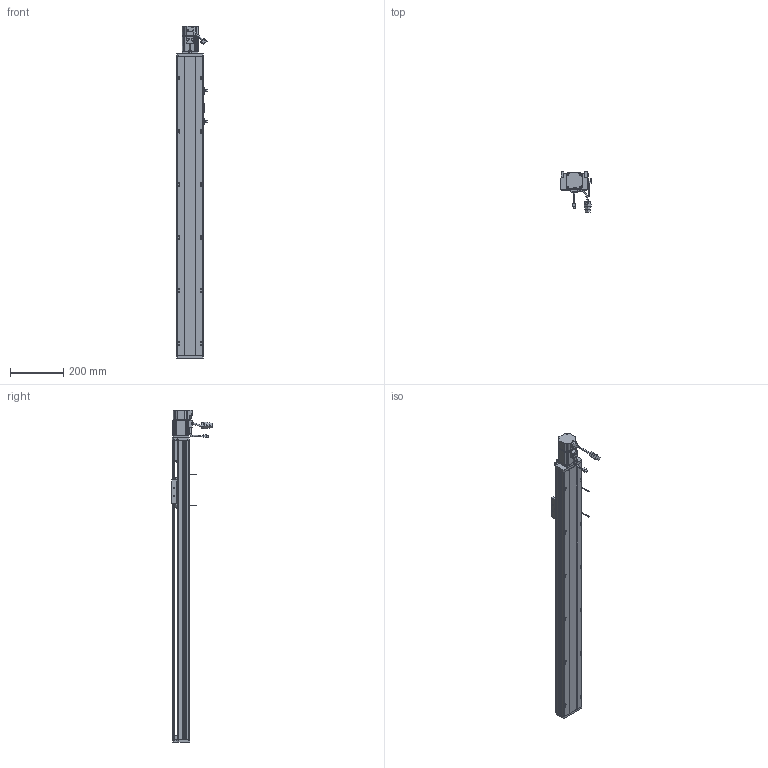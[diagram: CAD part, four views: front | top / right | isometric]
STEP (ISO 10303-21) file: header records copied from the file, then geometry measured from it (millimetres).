
FILE_DESCRIPTION (( 'STEP AP214' ), '1' );
FILE_NAME ('CTH10-900.STEP', '2019-11-18T08:19:25', ( '微软用户' ), ( '微软中国' ), 'SwSTEP 2.0', 'SolidWorks 2017', '' );
FILE_SCHEMA (( 'AUTOMOTIVE_DESIGN' ));
Length unit declared in the file: millimetre
Products named in the file (34): COL12B-粣遠; 粣創揤啣; 噩砃MGN12C-2R420-Z0CHC; 7001-DF; 噩砃MGN12C-R1; BEARING_BaseModel20190604090351; 噩砃MGN12C; CTH10-粣創釱; 噩砃M3-L10囀鞠褒蹟佪; 怢湛200W侜督萇儂ECMA-CX0602ES; MGN12C-2R420-Z0CHC; CTH10-盖板_默认<按加工>; MGN12C-R1; SFH1605; MGN12C; SFH1605-288; 100耀郪-覜茼んえ; CTH10-侜督萇儂啣; M3-L8囀鞠褒蹟佪; CTH10-傷啣; EE-SX672; CTH10-盓傅釱; M4-L6半圆头内六角螺丝; CTH10-蹟簽蟀諉啣; 6000Z粣創; CTH10-移动座_默认<按加工>; 遣喳蝶15x12x8; CTH10-底座_默认<按加工>; M5-L20囀鞠褒蹟佪; CTH10粣創釱蚾饜极; CTH10-900; M3-L10囀鞠褒蹟佪; M4-L8囀鞠褒蹟佪; 坶踡蹟譫
Assembly tree (100 placements, depth 4):
  CTH10-900
    CTH10-底座_默认<按加工>
    CTH10-移动座_默认<按加工>
    CTH10-蹟簽蟀諉啣
    CTH10-盓傅釱
    CTH10-傷啣
    CTH10-侜督萇儂啣
    SFH1605-288
    SFH1605
    CTH10-盖板_默认<按加工>
    怢湛200W侜督萇儂ECMA-CX0602ES
    CTH10粣創釱蚾饜极
      CTH10-粣創釱
      7001-DF
        BEARING_BaseModel20190604090351  x2
      粣創揤啣
      COL12B-粣遠  x2
      坶踡蹟譫
      M4-L8囀鞠褒蹟佪  x4
      M3-L10囀鞠褒蹟佪  x6
    M3-L10囀鞠褒蹟佪  x19
    M5-L20囀鞠褒蹟佪  x4
    遣喳蝶15x12x8  x3
    6000Z粣創
    M4-L6半圆头内六角螺丝  x4
    M4-L8囀鞠褒蹟佪  x8
    EE-SX672  x2
    M3-L8囀鞠褒蹟佪  x4
    100耀郪-覜茼んえ
    MGN12C-2R420-Z0CHC
      MGN12C
      MGN12C-R1  x2
      M3-L10囀鞠褒蹟佪  x8
    噩砃M3-L10囀鞠褒蹟佪
    噩砃MGN12C-2R420-Z0CHC
      噩砃MGN12C
      噩砃MGN12C-R1  x2
      噩砃M3-L10囀鞠褒蹟佪  x8
Bounding box: 114.24 x 151.37 x 1252 mm (x, y, z)
Volume: 3115934.7 mm3; surface area: 1171760 mm2
Topology: 96 solids, 105 shells, 4745 faces, 12042 edges, 7524 vertices
Faces by surface type: plane 2354, cylinder 1504, cone 601, bspline 241, torus 33, sphere 12
Entity records: 102472 total; most frequent: CARTESIAN_POINT 30990, ORIENTED_EDGE 14588, DIRECTION 14023, EDGE_CURVE 7294, AXIS2_PLACEMENT_3D 5042, VERTEX_POINT 4738, LINE 3939, VECTOR 3939
